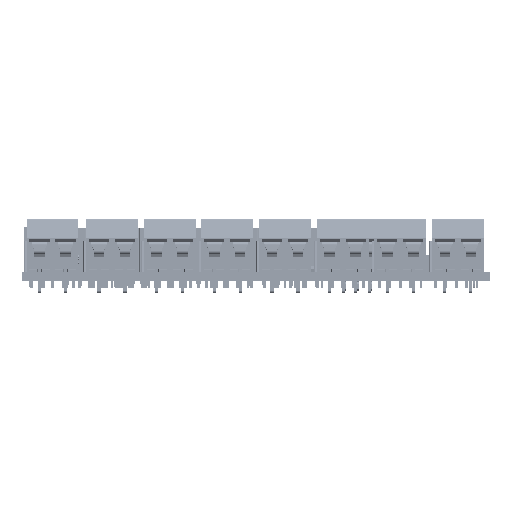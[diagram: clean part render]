
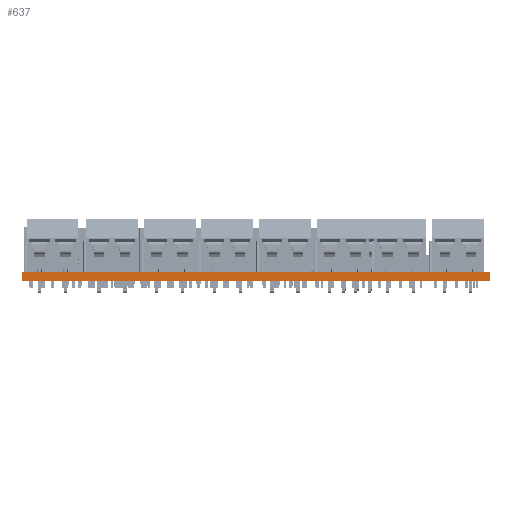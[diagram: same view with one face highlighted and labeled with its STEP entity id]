
A CAD part, front view. The second image highlights one B-rep face of the part: STEP entity #637.
In plain terms, the highlighted planar face has unit normal (0, -1, 0).
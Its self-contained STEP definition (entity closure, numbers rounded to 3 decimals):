
#612 = VERTEX_POINT('',#613);
#613 = CARTESIAN_POINT('',(90.157,-62.852,
    1.6));
#619 = EDGE_CURVE('',#620,#612,#622,.T.);
#620 = VERTEX_POINT('',#621);
#621 = CARTESIAN_POINT('',(90.157,-62.852,0.));
#622 = LINE('',#623,#624);
#623 = CARTESIAN_POINT('',(90.157,-62.852,0.));
#624 = VECTOR('',#625,1.);
#625 = DIRECTION('',(0.,0.,1.));
#637 = ADVANCED_FACE('',(#638),#663,.T.);
#638 = FACE_BOUND('',#639,.T.);
#639 = EDGE_LOOP('',(#640,#641,#649,#657));
#640 = ORIENTED_EDGE('',*,*,#619,.T.);
#641 = ORIENTED_EDGE('',*,*,#642,.T.);
#642 = EDGE_CURVE('',#612,#643,#645,.T.);
#643 = VERTEX_POINT('',#644);
#644 = CARTESIAN_POINT('',(0.013,-62.852,
    1.6));
#645 = LINE('',#646,#647);
#646 = CARTESIAN_POINT('',(90.157,-62.852,
    1.6));
#647 = VECTOR('',#648,1.);
#648 = DIRECTION('',(-1.,0.,0.));
#649 = ORIENTED_EDGE('',*,*,#650,.F.);
#650 = EDGE_CURVE('',#651,#643,#653,.T.);
#651 = VERTEX_POINT('',#652);
#652 = CARTESIAN_POINT('',(0.013,-62.852,0.));
#653 = LINE('',#654,#655);
#654 = CARTESIAN_POINT('',(0.013,-62.852,0.));
#655 = VECTOR('',#656,1.);
#656 = DIRECTION('',(0.,0.,1.));
#657 = ORIENTED_EDGE('',*,*,#658,.F.);
#658 = EDGE_CURVE('',#620,#651,#659,.T.);
#659 = LINE('',#660,#661);
#660 = CARTESIAN_POINT('',(90.157,-62.852,0.));
#661 = VECTOR('',#662,1.);
#662 = DIRECTION('',(-1.,0.,0.));
#663 = PLANE('',#664);
#664 = AXIS2_PLACEMENT_3D('',#665,#666,#667);
#665 = CARTESIAN_POINT('',(90.157,-62.852,0.));
#666 = DIRECTION('',(0.,-1.,0.));
#667 = DIRECTION('',(-1.,0.,0.));
